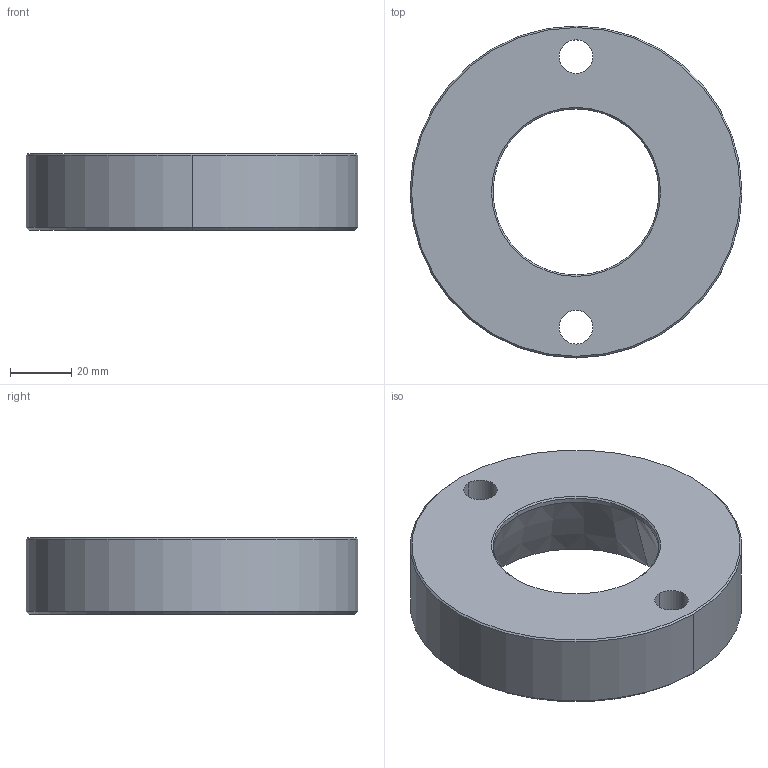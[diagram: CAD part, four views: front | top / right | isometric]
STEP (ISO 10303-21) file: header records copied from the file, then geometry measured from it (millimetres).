
FILE_DESCRIPTION((''),'2;1');
FILE_NAME('','2010-08-30T17:24:19+09:00',('misumi'),(''),'M/STEP i/f 1R2-14','CADmeister v5.1','');
FILE_SCHEMA(('AUTOMOTIVE_DESIGN'));
Length unit declared in the file: millimetre
Products named in the file (1): HKD38-25-R
Bounding box: 108 x 108 x 25 mm (x, y, z)
Volume: 149479.8 mm3; surface area: 27509.9 mm2
Topology: 1 solids, 1 shells, 24 faces, 54 edges, 34 vertices
Faces by surface type: cylinder 12, cone 8, plane 4
Entity records: 782 total; most frequent: DIRECTION 138, CARTESIAN_POINT 113, ORIENTED_EDGE 108, AXIS2_PLACEMENT_3D 59, EDGE_CURVE 54, VERTEX_POINT 34, CIRCLE 34, EDGE_LOOP 32
